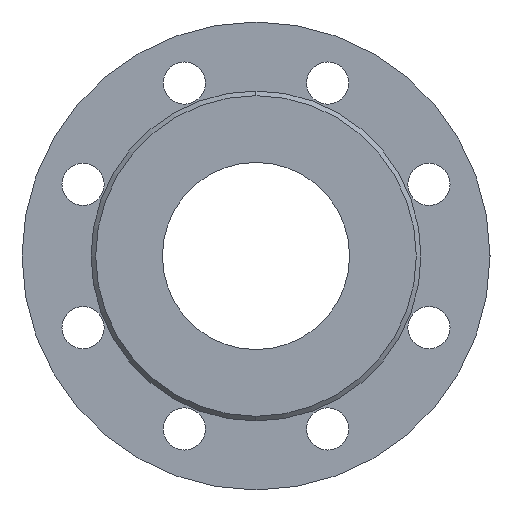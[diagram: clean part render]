
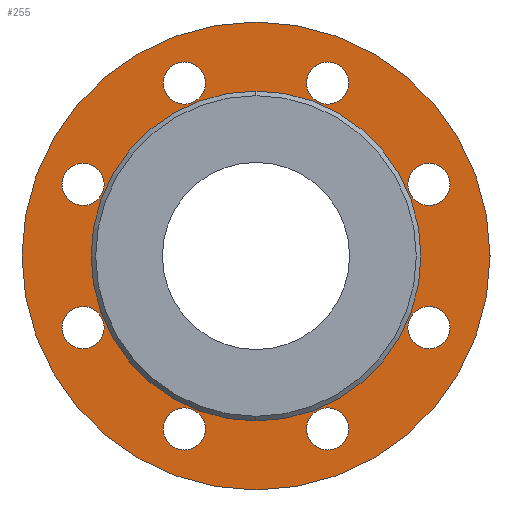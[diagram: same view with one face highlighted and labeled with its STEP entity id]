
A CAD part, left-side view. The second image highlights one B-rep face of the part: STEP entity #255.
In plain terms, the highlighted planar face has unit normal (-1, 0, 0).
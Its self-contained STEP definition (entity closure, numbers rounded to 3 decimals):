
#255=ADVANCED_FACE('',(#509,#510,#511,#512,#513,#514,#515,#516,#517,#518),#519,.F.);
#509=FACE_BOUND('',#768,.T.);
#510=FACE_BOUND('',#769,.T.);
#511=FACE_BOUND('',#770,.T.);
#512=FACE_BOUND('',#771,.T.);
#513=FACE_BOUND('',#772,.T.);
#514=FACE_BOUND('',#773,.T.);
#515=FACE_BOUND('',#774,.T.);
#516=FACE_BOUND('',#775,.T.);
#517=FACE_BOUND('',#776,.T.);
#518=FACE_OUTER_BOUND('',#777,.T.);
#519=PLANE('',#778);
#768=EDGE_LOOP('',(#1312,#1313));
#769=EDGE_LOOP('',(#1314,#1315));
#770=EDGE_LOOP('',(#1316,#1317));
#771=EDGE_LOOP('',(#1318,#1319));
#772=EDGE_LOOP('',(#1320,#1321));
#773=EDGE_LOOP('',(#1322,#1323));
#774=EDGE_LOOP('',(#1324,#1325));
#775=EDGE_LOOP('',(#1326,#1327));
#776=EDGE_LOOP('',(#1328,#1329));
#777=EDGE_LOOP('',(#1330,#1331));
#778=AXIS2_PLACEMENT_3D('',#1332,#1333,#1334);
#1312=ORIENTED_EDGE('',*,*,#1442,.T.);
#1313=ORIENTED_EDGE('',*,*,#1565,.T.);
#1314=ORIENTED_EDGE('',*,*,#1481,.T.);
#1315=ORIENTED_EDGE('',*,*,#1474,.T.);
#1316=ORIENTED_EDGE('',*,*,#1402,.T.);
#1317=ORIENTED_EDGE('',*,*,#1562,.T.);
#1318=ORIENTED_EDGE('',*,*,#1460,.T.);
#1319=ORIENTED_EDGE('',*,*,#1522,.T.);
#1320=ORIENTED_EDGE('',*,*,#1571,.T.);
#1321=ORIENTED_EDGE('',*,*,#1446,.T.);
#1322=ORIENTED_EDGE('',*,*,#1550,.T.);
#1323=ORIENTED_EDGE('',*,*,#1411,.T.);
#1324=ORIENTED_EDGE('',*,*,#1355,.T.);
#1325=ORIENTED_EDGE('',*,*,#1569,.T.);
#1326=ORIENTED_EDGE('',*,*,#1529,.T.);
#1327=ORIENTED_EDGE('',*,*,#1415,.T.);
#1328=ORIENTED_EDGE('',*,*,#1420,.T.);
#1329=ORIENTED_EDGE('',*,*,#1537,.T.);
#1330=ORIENTED_EDGE('',*,*,#1557,.F.);
#1331=ORIENTED_EDGE('',*,*,#1469,.F.);
#1332=CARTESIAN_POINT('',(2.0,0.0,0.));
#1333=DIRECTION('',(1.0,0.0,0.));
#1334=DIRECTION('',(0.,0.0,-1.0));
#1355=EDGE_CURVE('',#1576,#1580,#1582,.T.);
#1402=EDGE_CURVE('',#1661,#1663,#1665,.T.);
#1411=EDGE_CURVE('',#1679,#1677,#1680,.T.);
#1415=EDGE_CURVE('',#1685,#1683,#1686,.T.);
#1420=EDGE_CURVE('',#1689,#1691,#1693,.T.);
#1442=EDGE_CURVE('',#1728,#1726,#1729,.T.);
#1446=EDGE_CURVE('',#1734,#1732,#1735,.T.);
#1460=EDGE_CURVE('',#1753,#1755,#1757,.T.);
#1469=EDGE_CURVE('',#1770,#1768,#1772,.T.);
#1474=EDGE_CURVE('',#1778,#1776,#1779,.T.);
#1481=EDGE_CURVE('',#1776,#1778,#1788,.T.);
#1522=EDGE_CURVE('',#1755,#1753,#1845,.T.);
#1529=EDGE_CURVE('',#1683,#1685,#1852,.T.);
#1537=EDGE_CURVE('',#1691,#1689,#1862,.T.);
#1550=EDGE_CURVE('',#1677,#1679,#1877,.T.);
#1557=EDGE_CURVE('',#1768,#1770,#1884,.T.);
#1562=EDGE_CURVE('',#1663,#1661,#1889,.T.);
#1565=EDGE_CURVE('',#1726,#1728,#1892,.T.);
#1569=EDGE_CURVE('',#1580,#1576,#1896,.T.);
#1571=EDGE_CURVE('',#1732,#1734,#1898,.T.);
#1576=VERTEX_POINT('',#1903);
#1580=VERTEX_POINT('',#1908);
#1582=CIRCLE('',#1911,9.0);
#1661=VERTEX_POINT('',#1998);
#1663=VERTEX_POINT('',#2001);
#1665=CIRCLE('',#2004,9.0);
#1677=VERTEX_POINT('',#2018);
#1679=VERTEX_POINT('',#2021);
#1680=CIRCLE('',#2022,9.0);
#1683=VERTEX_POINT('',#2026);
#1685=VERTEX_POINT('',#2029);
#1686=CIRCLE('',#2030,9.0);
#1689=VERTEX_POINT('',#2034);
#1691=VERTEX_POINT('',#2037);
#1693=CIRCLE('',#2040,9.0);
#1726=VERTEX_POINT('',#2077);
#1728=VERTEX_POINT('',#2080);
#1729=CIRCLE('',#2081,40.0);
#1732=VERTEX_POINT('',#2085);
#1734=VERTEX_POINT('',#2088);
#1735=CIRCLE('',#2089,9.0);
#1753=VERTEX_POINT('',#2112);
#1755=VERTEX_POINT('',#2115);
#1757=CIRCLE('',#2118,9.0);
#1768=VERTEX_POINT('',#2131);
#1770=VERTEX_POINT('',#2134);
#1772=CIRCLE('',#2137,100.0);
#1776=VERTEX_POINT('',#2141);
#1778=VERTEX_POINT('',#2144);
#1779=CIRCLE('',#2145,9.0);
#1788=CIRCLE('',#2157,9.0);
#1845=CIRCLE('',#2220,9.0);
#1852=CIRCLE('',#2227,9.0);
#1862=CIRCLE('',#2237,9.0);
#1877=CIRCLE('',#2256,9.0);
#1884=CIRCLE('',#2263,100.0);
#1889=CIRCLE('',#2268,9.0);
#1892=CIRCLE('',#2271,40.0);
#1896=CIRCLE('',#2275,9.0);
#1898=CIRCLE('',#2277,9.0);
#1903=CARTESIAN_POINT('',(2.0,30.615,64.91));
#1908=CARTESIAN_POINT('',(2.0,30.615,82.91));
#1911=AXIS2_PLACEMENT_3D('',#2285,#2286,#2287);
#1998=CARTESIAN_POINT('',(2.0,30.615,-82.91));
#2001=CARTESIAN_POINT('',(2.0,30.615,-64.91));
#2004=AXIS2_PLACEMENT_3D('',#2385,#2386,#2387);
#2018=CARTESIAN_POINT('',(2.0,73.91,21.615));
#2021=CARTESIAN_POINT('',(2.0,73.91,39.615));
#2022=AXIS2_PLACEMENT_3D('',#2397,#2398,#2399);
#2026=CARTESIAN_POINT('',(2.0,-73.91,-39.615));
#2029=CARTESIAN_POINT('',(2.0,-73.91,-21.615));
#2030=AXIS2_PLACEMENT_3D('',#2402,#2403,#2404);
#2034=CARTESIAN_POINT('',(2.0,-30.615,-82.91));
#2037=CARTESIAN_POINT('',(2.0,-30.615,-64.91));
#2040=AXIS2_PLACEMENT_3D('',#2408,#2409,#2410);
#2077=CARTESIAN_POINT('',(2.0,0.,-40.0));
#2080=CARTESIAN_POINT('',(2.0,0.,40.0));
#2081=AXIS2_PLACEMENT_3D('',#2446,#2447,#2448);
#2085=CARTESIAN_POINT('',(2.0,-30.615,64.91));
#2088=CARTESIAN_POINT('',(2.0,-30.615,82.91));
#2089=AXIS2_PLACEMENT_3D('',#2451,#2452,#2453);
#2112=CARTESIAN_POINT('',(2.0,-73.91,21.615));
#2115=CARTESIAN_POINT('',(2.0,-73.91,39.615));
#2118=AXIS2_PLACEMENT_3D('',#2470,#2471,#2472);
#2131=CARTESIAN_POINT('',(2.,0.0,-100.0));
#2134=CARTESIAN_POINT('',(2.,0.,100.0));
#2137=AXIS2_PLACEMENT_3D('',#2483,#2484,#2485);
#2141=CARTESIAN_POINT('',(2.0,73.91,-39.615));
#2144=CARTESIAN_POINT('',(2.0,73.91,-21.615));
#2145=AXIS2_PLACEMENT_3D('',#2490,#2491,#2492);
#2157=AXIS2_PLACEMENT_3D('',#2499,#2500,#2501);
#2220=AXIS2_PLACEMENT_3D('',#2580,#2581,#2582);
#2227=AXIS2_PLACEMENT_3D('',#2592,#2593,#2594);
#2237=AXIS2_PLACEMENT_3D('',#2607,#2608,#2609);
#2256=AXIS2_PLACEMENT_3D('',#2623,#2624,#2625);
#2263=AXIS2_PLACEMENT_3D('',#2629,#2630,#2631);
#2268=AXIS2_PLACEMENT_3D('',#2632,#2633,#2634);
#2271=AXIS2_PLACEMENT_3D('',#2635,#2636,#2637);
#2275=AXIS2_PLACEMENT_3D('',#2638,#2639,#2640);
#2277=AXIS2_PLACEMENT_3D('',#2641,#2642,#2643);
#2285=CARTESIAN_POINT('',(2.0,30.615,73.91));
#2286=DIRECTION('',(1.0,0.0,0.));
#2287=DIRECTION('',(0.,0.0,-1.0));
#2385=CARTESIAN_POINT('',(2.0,30.615,-73.91));
#2386=DIRECTION('',(1.0,0.0,0.));
#2387=DIRECTION('',(0.,0.0,-1.0));
#2397=CARTESIAN_POINT('',(2.0,73.91,30.615));
#2398=DIRECTION('',(1.0,0.0,0.));
#2399=DIRECTION('',(0.,0.0,-1.0));
#2402=CARTESIAN_POINT('',(2.0,-73.91,-30.615));
#2403=DIRECTION('',(1.0,0.0,0.));
#2404=DIRECTION('',(0.,0.0,-1.0));
#2408=CARTESIAN_POINT('',(2.0,-30.615,-73.91));
#2409=DIRECTION('',(1.0,0.0,0.));
#2410=DIRECTION('',(0.,0.0,-1.0));
#2446=CARTESIAN_POINT('',(2.0,0.0,0.));
#2447=DIRECTION('',(1.0,0.0,0.));
#2448=DIRECTION('',(0.,0.0,-1.0));
#2451=CARTESIAN_POINT('',(2.0,-30.615,73.91));
#2452=DIRECTION('',(1.0,0.0,0.));
#2453=DIRECTION('',(0.,0.0,-1.0));
#2470=CARTESIAN_POINT('',(2.0,-73.91,30.615));
#2471=DIRECTION('',(1.0,0.0,0.));
#2472=DIRECTION('',(0.,0.0,-1.0));
#2483=CARTESIAN_POINT('',(2.0,0.0,0.));
#2484=DIRECTION('',(1.0,0.0,0.));
#2485=DIRECTION('',(0.,0.0,-1.0));
#2490=CARTESIAN_POINT('',(2.0,73.91,-30.615));
#2491=DIRECTION('',(1.0,0.0,0.));
#2492=DIRECTION('',(0.,0.0,-1.0));
#2499=CARTESIAN_POINT('',(2.0,73.91,-30.615));
#2500=DIRECTION('',(1.0,0.0,0.));
#2501=DIRECTION('',(0.,0.0,-1.0));
#2580=CARTESIAN_POINT('',(2.0,-73.91,30.615));
#2581=DIRECTION('',(1.0,0.0,0.));
#2582=DIRECTION('',(0.,0.0,-1.0));
#2592=CARTESIAN_POINT('',(2.0,-73.91,-30.615));
#2593=DIRECTION('',(1.0,0.0,0.));
#2594=DIRECTION('',(0.,0.0,-1.0));
#2607=CARTESIAN_POINT('',(2.0,-30.615,-73.91));
#2608=DIRECTION('',(1.0,0.0,0.));
#2609=DIRECTION('',(0.,0.0,-1.0));
#2623=CARTESIAN_POINT('',(2.0,73.91,30.615));
#2624=DIRECTION('',(1.0,0.0,0.));
#2625=DIRECTION('',(0.,0.0,-1.0));
#2629=CARTESIAN_POINT('',(2.0,0.0,0.));
#2630=DIRECTION('',(1.0,0.0,0.));
#2631=DIRECTION('',(0.,0.0,-1.0));
#2632=CARTESIAN_POINT('',(2.0,30.615,-73.91));
#2633=DIRECTION('',(1.0,0.0,0.));
#2634=DIRECTION('',(0.,0.0,-1.0));
#2635=CARTESIAN_POINT('',(2.0,0.0,0.));
#2636=DIRECTION('',(1.0,0.0,0.));
#2637=DIRECTION('',(0.,0.0,-1.0));
#2638=CARTESIAN_POINT('',(2.0,30.615,73.91));
#2639=DIRECTION('',(1.0,0.0,0.));
#2640=DIRECTION('',(0.,0.0,-1.0));
#2641=CARTESIAN_POINT('',(2.0,-30.615,73.91));
#2642=DIRECTION('',(1.0,0.0,0.));
#2643=DIRECTION('',(0.,0.0,-1.0));
